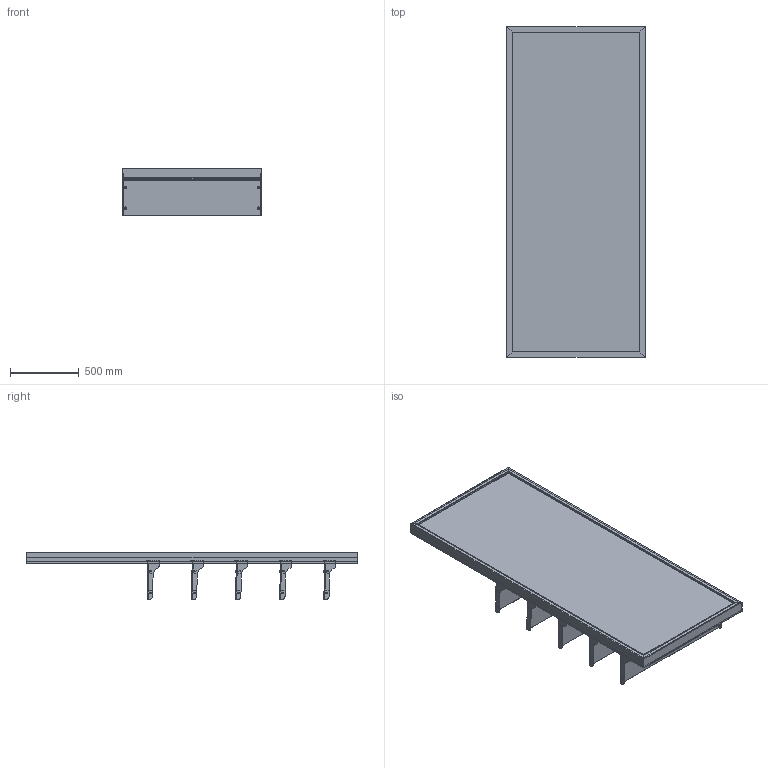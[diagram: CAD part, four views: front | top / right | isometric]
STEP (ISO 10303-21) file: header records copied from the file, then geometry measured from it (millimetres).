
FILE_DESCRIPTION (( 'STEP AP203' ), '1' );
FILE_NAME ('Wide Illuminated Glass Shoe Shop Display.STEP', '2026-03-30T14:19:26', ( '' ), ( '' ), 'SwSTEP 2.0', 'SolidWorks 2025', '' );
FILE_SCHEMA (( 'CONFIG_CONTROL_DESIGN' ));
Length unit declared in the file: millimetre
Products named in the file (11): 0001-31-132.STEP; 0001-31-SA30.STEP; 0001-31-SA31 - 1005W Glass Shelf_Assem5; 0001-31-123.STEP; 0001-31-GA10 - 1005W Slotted upbright; 0001-31-114.STEP; 0001-31-SA31 - 1005W Glass Shelf.STEP; 0001-31-124.STEP; Wide Illuminated Glass Shoe Shop Display; 0000-31-113.STEP; 0001-31-SA29.STEP
Assembly tree (28 placements, depth 5):
  Wide Illuminated Glass Shoe Shop Display
    0001-31-GA10 - 1005W Slotted upbright
    0001-31-SA31 - 1005W Glass Shelf_Assem5  x5
      0001-31-SA31 - 1005W Glass Shelf.STEP
        0001-31-SA29.STEP
          0000-31-113.STEP
          0001-31-114.STEP  x2
        0001-31-SA30.STEP
          0000-31-113.STEP
          0001-31-114.STEP  x2
        0001-31-132.STEP
        0001-31-124.STEP  x4
        0001-31-123.STEP  x8
Bounding box: 1005.74 x 2400 x 340.46 mm (x, y, z)
Volume: 18219812.9 mm3; surface area: 14842361.9 mm2
Topology: 101 solids, 101 shells, 2186 faces, 5916 edges, 3824 vertices
Faces by surface type: plane 1508, cylinder 598, cone 80
Entity records: 29268 total; most frequent: CARTESIAN_POINT 5281, ORIENTED_EDGE 5082, DIRECTION 4059, EDGE_CURVE 2541, VECTOR 2371, LINE 2371, VERTEX_POINT 1682, EDGE_LOOP 913
